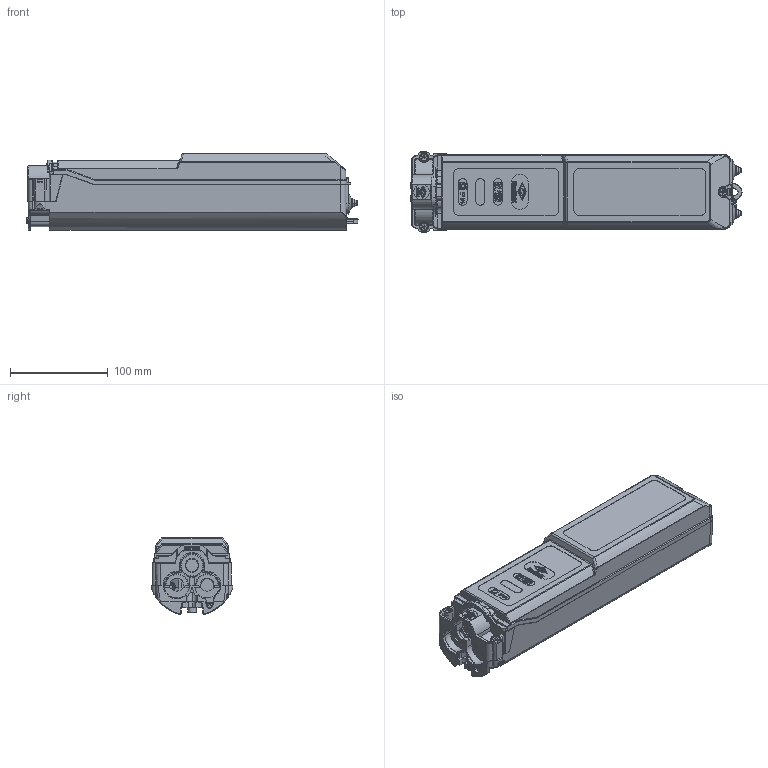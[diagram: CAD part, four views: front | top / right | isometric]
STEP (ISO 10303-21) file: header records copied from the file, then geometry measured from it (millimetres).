
FILE_DESCRIPTION (( 'STEP AP203' ), '1' );
FILE_NAME ('3D - HSW2505 Außenkontur.STEP', '2019-06-28T08:26:52', ( '' ), ( '' ), 'SwSTEP 2.0', 'SolidWorks 2013', '' );
FILE_SCHEMA (( 'CONFIG_CONTROL_DESIGN' ));
Length unit declared in the file: millimetre
Products named in the file (1): 3D - HSW2505 Außenkontur
Bounding box: 339.54 x 83.5 x 78.61 mm (x, y, z)
Surface area: 131064.3 mm2 (no closed solid volume)
Topology: 0 solids, 26 shells, 1176 faces, 4196 edges, 2961 vertices
Faces by surface type: plane 534, cylinder 302, bspline 136, cone 101, torus 93, sphere 10
Entity records: 54740 total; most frequent: CARTESIAN_POINT 21117, ORIENTED_EDGE 6729, DIRECTION 6352, EDGE_CURVE 4186, VERTEX_POINT 2961, VECTOR 2420, LINE 2420, AXIS2_PLACEMENT_3D 1966
